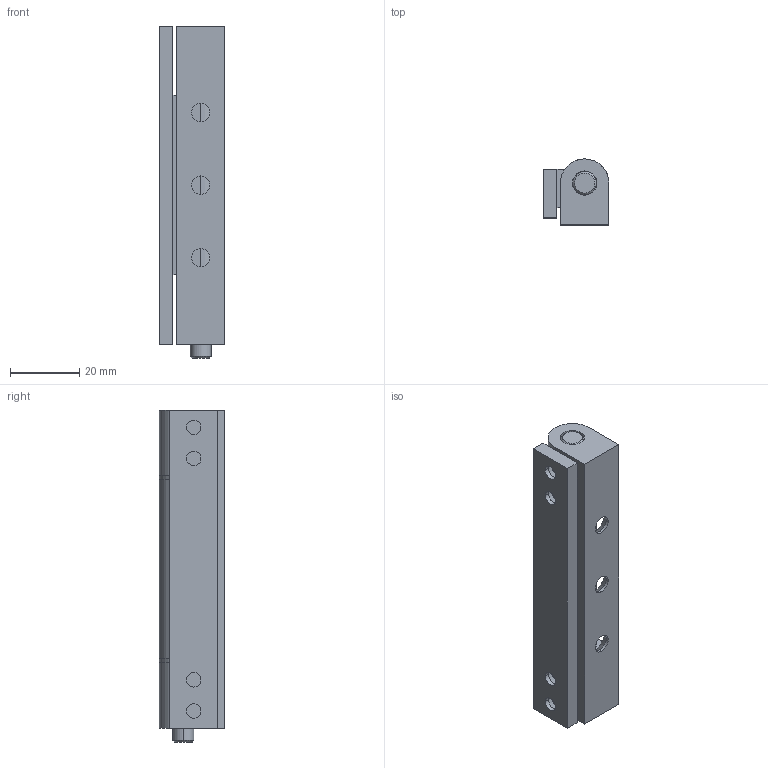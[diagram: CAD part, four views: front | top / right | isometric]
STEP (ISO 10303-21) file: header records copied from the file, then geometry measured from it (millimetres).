
FILE_DESCRIPTION (( 'STEP AP203' ), '1' );
FILE_NAME ('SK2-004.STEP', '2018-11-01T05:15:54', ( 'admin' ), ( 'Microsoft' ), 'SwSTEP 2.0', 'SolidWorks 2015', '' );
FILE_SCHEMA (( 'CONFIG_CONTROL_DESIGN' ));
Length unit declared in the file: millimetre
Products named in the file (5): SK2-004-F3; SK2-004; SK2-004-F1; SK2-004-F2; SK2-004-F4
Assembly tree (5 placements, depth 2):
  SK2-004
    SK2-004-F1
    SK2-004-F2
    SK2-004-F3  x2
    SK2-004-F4
Bounding box: 19 x 19 x 96 mm (x, y, z)
Volume: 25255.6 mm3; surface area: 15825.2 mm2
Topology: 5 solids, 5 shells, 225 faces, 499 edges, 286 vertices
Faces by surface type: cylinder 120, plane 85, cone 20
Entity records: 6896 total; most frequent: CARTESIAN_POINT 1552, DIRECTION 1071, ORIENTED_EDGE 962, EDGE_CURVE 481, AXIS2_PLACEMENT_3D 449, VERTEX_POINT 274, EDGE_LOOP 239, CIRCLE 225
